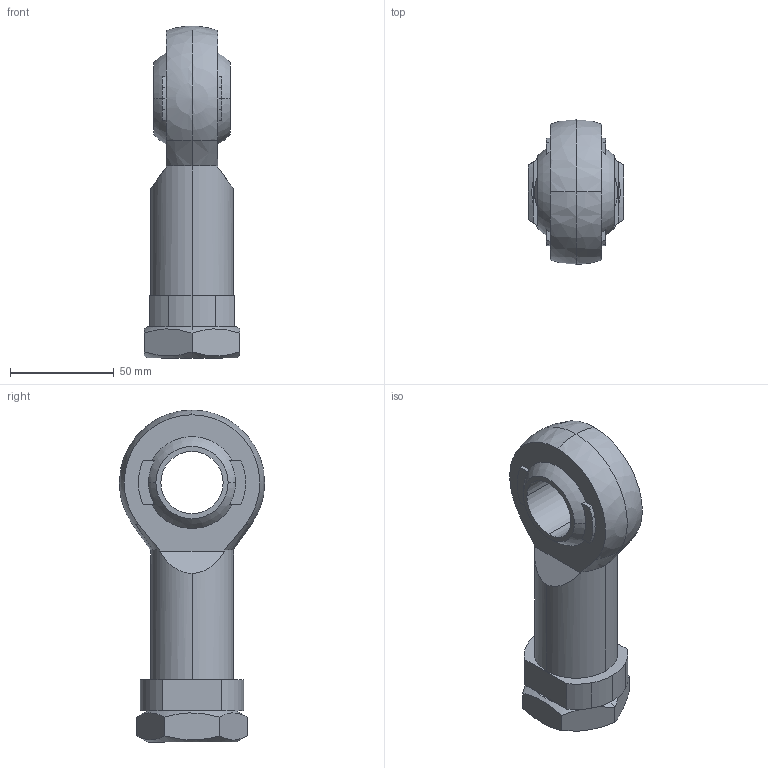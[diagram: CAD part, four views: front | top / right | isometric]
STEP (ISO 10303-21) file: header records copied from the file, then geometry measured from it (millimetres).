
FILE_DESCRIPTION (( 'STEP AP203' ), '1' );
FILE_NAME ('MJ4-KGK.STEP', '2024-01-15T15:21:26', ( '' ), ( '' ), 'SwSTEP 2.0', 'SolidWorks 2022', '' );
FILE_SCHEMA (( 'CONFIG_CONTROL_DESIGN' ));
Length unit declared in the file: millimetre
Products named in the file (1): MJ4-KGK
Bounding box: 46 x 70 x 160 mm (x, y, z)
Volume: 170985 mm3; surface area: 37157.2 mm2
Topology: 2 solids, 2 shells, 88 faces, 232 edges, 146 vertices
Faces by surface type: cylinder 30, plane 30, cone 20, sphere 8
Entity records: 2765 total; most frequent: CARTESIAN_POINT 501, DIRECTION 500, ORIENTED_EDGE 448, EDGE_CURVE 224, AXIS2_PLACEMENT_3D 207, VERTEX_POINT 144, CIRCLE 118, EDGE_LOOP 96
